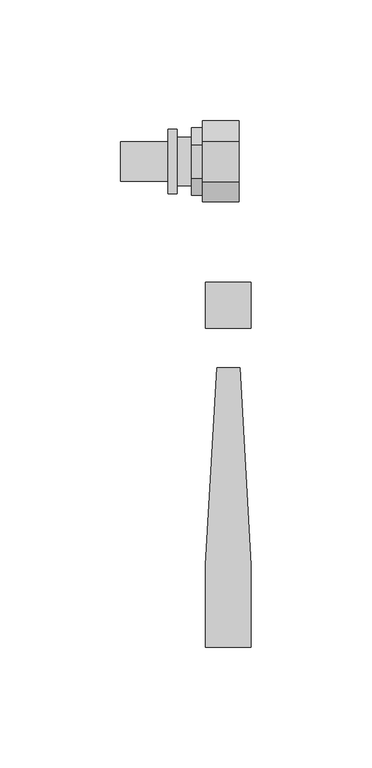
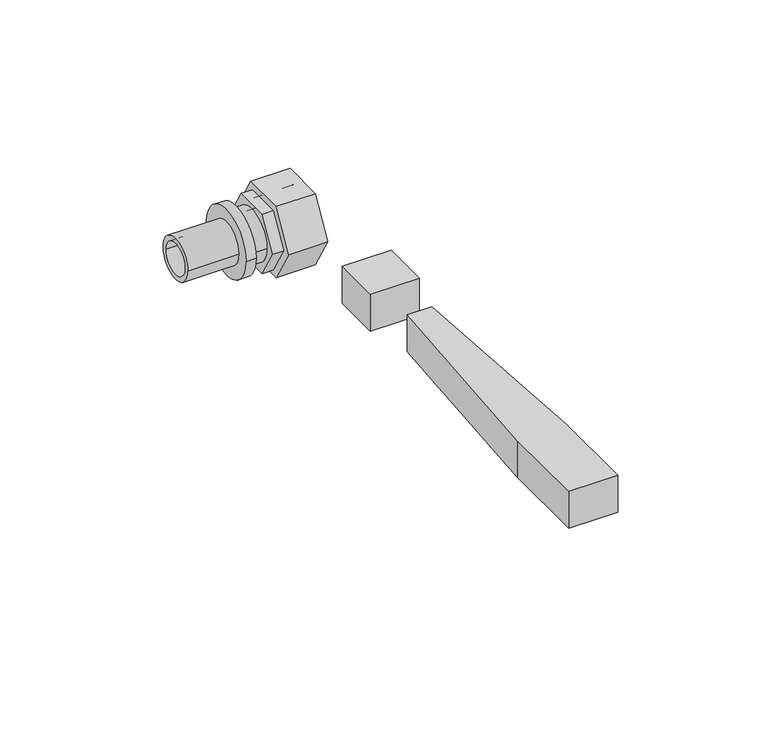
"""IFC4 building model written with IfcOpenShell, lengths in millimetres: pipe fitting geometry, RAUTITAN_LX_C.Coupling : RTI LX/PX C.C DN."""

from ifc_helpers import new_model, si_unit, point, frame, origin, origin_with_axes, origin_2d, place, context, project, spatial, polyline, circle_curve, trimmed, segment, composite_curve, outline, extrude, source, transform, mapped, element, save
from ifc_brep_helpers import plane_surface, cylinder_surface, revolved_surface, advanced_brep


def pipe_fitting_b595022a(model_context):
    return source(origin(), model_context, "Body", "SolidModel", [
        extrude(outline(polyline([(8.3715789, -14.5), (-8.3715789, -14.5), (-16.7431578, 0.0), (-8.3715789, 14.5), (8.3715789, 14.5), (16.7431578, 0.0), (8.3715789, -14.5)]), holes=[composite_curve([segment(trimmed(circle_curve(origin_2d(), 11.05), [point((-11.05, 0.0))], [point((11.05, 0.0))], True, "CARTESIAN"), True, "CONTINUOUS"), segment(trimmed(circle_curve(origin_2d(), 11.05), [point((11.05, 0.0))], [point((-11.05, 0.0))], True, "CARTESIAN"), True, "CONTINUOUS")], self_intersect=False)]), frame((14.3, 0.0, 0.0), z_axis=(1.0, 0.0, 0.0), x_axis=(0.0, 1.0, 0.0)), (0.0, 0.0, 1.0), 15.0),
        advanced_brep(
        [(14.8, 6.9570707, -12.05), (9.8, 6.9570707, -12.05), (9.8, 13.9141415, 0.0), (14.8, 13.9141415, 0.0), (9.8, 6.9570707, 12.05), (14.8, 6.9570707, 12.05), (9.8, -6.9570707, 12.05), (14.8, -6.9570707, 12.05), (9.8, -13.9141415, 0.0), (14.8, -13.9141415, 0.0), (9.8, -6.9570707, -12.05), (14.8, -6.9570707, -12.05), (-19.5, 6.25, 0.0), (-19.5, -6.25, 0.0), (9.8, -6.25, 0.0), (9.8, 6.25, 0.0), (0.0, 8.25, 0.0), (0.0, -8.25, 0.0), (-19.5, -8.25, 0.0), (-19.5, 8.25, 0.0), (3.8, 13.25, 0.0), (3.8, -13.25, 0.0), (0.0, -13.25, 0.0), (0.0, 13.25, 0.0), (9.8, 10.05, 0.0), (9.8, -10.05, 0.0), (3.8, -10.05, 0.0), (3.8, 10.05, 0.0), (25.3, 11.05, 0.0), (25.3, -11.05, 0.0), (14.8, -11.05, 0.0), (14.8, 11.05, 0.0), (11.2, 7.65, 0.0), (11.2, -7.65, 0.0), (25.3, -7.65, 0.0), (25.3, 7.65, 0.0)],
        [
            (0, 1),
            (1, 2),
            (2, 3),
            (3, 0),
            (2, 4),
            (4, 5),
            (5, 3),
            (4, 6),
            (6, 7),
            (7, 5),
            (6, 8),
            (8, 9),
            (9, 7),
            (8, 10),
            (10, 11),
            (11, 9),
            (0, 11),
            (10, 1),
            (12, 13, circle_curve(frame((-19.5, 0.0, 0.0), z_axis=(-1.0, 0.0, 0.0), x_axis=(0.0, -1.0, 0.0)), 6.25)),
            (13, 14),
            (14, 15, circle_curve(frame((9.8, 0.0, 0.0), z_axis=(1.0, 0.0, 0.0), x_axis=(0.0, -1.0, 0.0)), 6.25)),
            (15, 12),
            (16, 17, circle_curve(frame((0.0, 0.0, 0.0), z_axis=(-1.0, 0.0, 0.0), x_axis=(0.0, -1.0, 0.0)), 8.25)),
            (17, 18),
            (18, 19, circle_curve(frame((-19.5, 0.0, 0.0), z_axis=(1.0, 0.0, 0.0), x_axis=(0.0, -1.0, 0.0)), 8.25)),
            (19, 16),
            (20, 21, circle_curve(frame((3.8, 0.0, 0.0), z_axis=(-1.0, 0.0, 0.0), x_axis=(0.0, -1.0, 0.0)), 13.25)),
            (21, 22),
            (22, 23, circle_curve(frame((0.0, 0.0, 0.0), z_axis=(1.0, 0.0, 0.0), x_axis=(0.0, -1.0, 0.0)), 13.25)),
            (23, 20),
            (24, 25, circle_curve(frame((9.8, 0.0, 0.0), z_axis=(-1.0, 0.0, 0.0), x_axis=(0.0, -1.0, 0.0)), 10.05)),
            (25, 26),
            (26, 27, circle_curve(frame((3.8, 0.0, 0.0), z_axis=(1.0, 0.0, 0.0), x_axis=(0.0, -1.0, 0.0)), 10.05)),
            (27, 24),
            (28, 29, circle_curve(frame((25.3, 0.0, 0.0), z_axis=(-1.0, 0.0, 0.0), x_axis=(0.0, -1.0, 0.0)), 11.05)),
            (29, 30),
            (30, 31, circle_curve(frame((14.8, 0.0, 0.0), z_axis=(1.0, 0.0, 0.0), x_axis=(0.0, -1.0, 0.0)), 11.05)),
            (31, 28),
            (32, 33, circle_curve(frame((11.2, 0.0, 0.0), z_axis=(-1.0, 0.0, 0.0), x_axis=(0.0, -1.0, 0.0)), 7.65)),
            (33, 34),
            (34, 35, circle_curve(frame((25.3, 0.0, 0.0), z_axis=(1.0, 0.0, 0.0), x_axis=(0.0, -1.0, 0.0)), 7.65)),
            (35, 32),
            (14, 33),
            (32, 15),
            (13, 12, circle_curve(frame((-19.5, 0.0, 0.0), z_axis=(-1.0, 0.0, 0.0), x_axis=(0.0, 1.0, 0.0)), 6.25)),
            (15, 14, circle_curve(frame((9.8, 0.0, 0.0), z_axis=(1.0, 0.0, 0.0), x_axis=(0.0, 1.0, 0.0)), 6.25)),
            (18, 19, circle_curve(frame((-19.5, 0.0, 0.0), z_axis=(-1.0, 0.0, 0.0), x_axis=(0.0, 1.0, 0.0)), 8.25)),
            (17, 16, circle_curve(frame((0.0, 0.0, 0.0), z_axis=(-1.0, 0.0, 0.0), x_axis=(0.0, 1.0, 0.0)), 8.25)),
            (22, 23, circle_curve(frame((0.0, 0.0, 0.0), z_axis=(-1.0, 0.0, 0.0), x_axis=(0.0, 1.0, 0.0)), 13.25)),
            (21, 20, circle_curve(frame((3.8, 0.0, 0.0), z_axis=(-1.0, 0.0, 0.0), x_axis=(0.0, 1.0, 0.0)), 13.25)),
            (26, 27, circle_curve(frame((3.8, 0.0, 0.0), z_axis=(-1.0, 0.0, 0.0), x_axis=(0.0, 1.0, 0.0)), 10.05)),
            (25, 24, circle_curve(frame((9.8, 0.0, 0.0), z_axis=(-1.0, 0.0, 0.0), x_axis=(0.0, 1.0, 0.0)), 10.05)),
            (29, 28, circle_curve(frame((25.3, 0.0, 0.0), z_axis=(-1.0, 0.0, 0.0), x_axis=(0.0, 1.0, 0.0)), 11.05)),
            (31, 30, circle_curve(frame((14.8, 0.0, 0.0), z_axis=(1.0, 0.0, 0.0), x_axis=(0.0, 1.0, 0.0)), 11.05)),
            (34, 35, circle_curve(frame((25.3, 0.0, 0.0), z_axis=(-1.0, 0.0, 0.0), x_axis=(0.0, 1.0, 0.0)), 7.65)),
            (33, 32, circle_curve(frame((11.2, 0.0, 0.0), z_axis=(-1.0, 0.0, 0.0), x_axis=(0.0, 1.0, 0.0)), 7.65)),
        ],
        [
            plane_surface(frame((9.8, 6.9570707, -12.05), z_axis=(0.0, 0.8660254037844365, -0.5000000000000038), x_axis=(0.0, 0.5000000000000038, 0.8660254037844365))),
            plane_surface(frame((9.8, 13.9141415, 0.0), z_axis=(0.0, 0.8660254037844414, 0.4999999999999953), x_axis=(0.0, -0.4999999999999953, 0.8660254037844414))),
            plane_surface(frame((9.8, 6.9570707, 12.05), z_axis=(0.0, 0.0, 1.0), x_axis=(0.0, -1.0, 0.0))),
            plane_surface(frame((9.8, -6.9570707, 12.05), z_axis=(0.0, -0.8660254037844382, 0.5000000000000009), x_axis=(0.0, -0.5000000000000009, -0.8660254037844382))),
            plane_surface(frame((9.8, -13.9141415, 0.0), z_axis=(0.0, -0.8660254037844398, -0.4999999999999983), x_axis=(0.0, 0.4999999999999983, -0.8660254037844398))),
            plane_surface(frame((9.8, -6.9570707, -12.05), z_axis=(0.0, 0.0, -1.0), x_axis=(0.0, 1.0, 0.0))),
            revolved_surface(polyline([(9.8, -6.25, 0.0), (-19.5, -6.25, 0.0)]), (0.0, 0.0, 0.0), (1.0, 0.0, 0.0)),
            cylinder_surface(frame((0.0, 0.0, 0.0), z_axis=(1.0, 0.0, 0.0), x_axis=(0.0, -1.0, 0.0)), 8.25),
            cylinder_surface(frame((0.0, 0.0, 0.0), z_axis=(1.0, 0.0, 0.0), x_axis=(0.0, -1.0, 0.0)), 13.25),
            cylinder_surface(frame((0.0, 0.0, 0.0), z_axis=(1.0, 0.0, 0.0), x_axis=(0.0, -1.0, 0.0)), 10.05),
            cylinder_surface(frame((0.0, 0.0, 0.0), z_axis=(1.0, 0.0, 0.0), x_axis=(0.0, -1.0, 0.0)), 11.05),
            revolved_surface(polyline([(25.3, -7.65, 0.0), (11.2, -7.65, 0.0)]), (0.0, 0.0, 0.0), (1.0, 0.0, 0.0)),
            revolved_surface(polyline([(11.2, -7.65, 0.0), (9.8, -6.25, 0.0)]), (0.0, 0.0, 0.0), (1.0, 0.0, 0.0)),
            revolved_surface(polyline([(9.8, 6.25, 0.0), (-19.5, 6.25, 0.0)]), (0.0, 0.0, 0.0), (1.0, 0.0, 0.0)),
            plane_surface(frame((-19.5, 0.0, 0.0), z_axis=(-1.0, 0.0, 0.0), x_axis=(0.0, 1.0, 0.0))),
            cylinder_surface(frame((0.0, 0.0, 0.0), z_axis=(1.0, 0.0, 0.0), x_axis=(0.0, 1.0, 0.0)), 8.25),
            plane_surface(frame((0.0, 0.0, 0.0), z_axis=(-1.0, 0.0, 0.0), x_axis=(0.0, 1.0, 0.0))),
            cylinder_surface(frame((0.0, 0.0, 0.0), z_axis=(1.0, 0.0, 0.0), x_axis=(0.0, 1.0, 0.0)), 13.25),
            plane_surface(frame((3.8, 0.0, 0.0), z_axis=(1.0, 0.0, 0.0), x_axis=(0.0, 1.0, 0.0))),
            cylinder_surface(frame((0.0, 0.0, 0.0), z_axis=(1.0, 0.0, 0.0), x_axis=(0.0, 1.0, 0.0)), 10.05),
            cylinder_surface(frame((0.0, 0.0, 0.0), z_axis=(1.0, 0.0, 0.0), x_axis=(0.0, 1.0, 0.0)), 11.05),
            plane_surface(frame((25.3, 0.0, 0.0), z_axis=(1.0, 0.0, 0.0), x_axis=(0.0, 1.0, 0.0))),
            revolved_surface(polyline([(25.3, 7.65, 0.0), (11.2, 7.65, 0.0)]), (0.0, 0.0, 0.0), (1.0, 0.0, 0.0)),
            revolved_surface(polyline([(11.2, 7.65, 0.0), (9.8, 6.25, 0.0)]), (0.0, 0.0, 0.0), (1.0, 0.0, 0.0)),
            plane_surface(frame((14.8, -6.9570707, -12.05), z_axis=(1.0, 0.0, 0.0), x_axis=(0.0, 1.0, 0.0))),
            plane_surface(frame((9.8, -5.2250199, -9.05), z_axis=(-1.0, 0.0, 0.0), x_axis=(0.0, 1.0, 0.0))),
        ],
        [
            (0, [[1, 2, 3, 4]]),
            (1, [[-3, 5, 6, 7]]),
            (2, [[-6, 8, 9, 10]]),
            (3, [[-9, 11, 12, 13]]),
            (4, [[-12, 14, 15, 16]]),
            (5, [[-1, 17, -15, 18]]),
            (6, [[19, 20, 21, 22]]),
            (7, [[23, 24, 25, 26]]),
            (8, [[27, 28, 29, 30]]),
            (9, [[31, 32, 33, 34]]),
            (10, [[35, 36, 37, 38]]),
            (11, [[39, 40, 41, 42]]),
            (12, [[-21, 43, -39, 44]]),
            (13, [[-20, 45, -22, 46]]),
            (14, [[-25, 47], [-19, -45]]),
            (15, [[-24, 48, -26, -47]]),
            (16, [[-29, 49], [-23, -48]]),
            (17, [[-28, 50, -30, -49]]),
            (18, [[-27, -50], [-33, 51]]),
            (19, [[-32, 52, -34, -51]]),
            (20, [[53, -38, 54, -36]]),
            (21, [[-35, -53], [-41, 55]]),
            (22, [[-40, 56, -42, -55]]),
            (23, [[-43, -46, -44, -56]]),
            (24, [[-4, -7, -10, -13, -16, -17], [-37, -54]]),
            (25, [[-2, -18, -14, -11, -8, -5], [-31, -52]]),
        ],
    ),
        extrude(outline(polyline([(29.7088895, -85.3166715), (34.4177791, -166.6553807), (34.4177791, -200.6844652), (15.5822209, -200.6844652), (15.5822209, -166.6553807), (20.2911105, -85.3166715), (29.7088895, -85.3166715)])), origin_with_axes(), (0.0, 0.0, 1.0), 15.0),
        extrude(outline(polyline([(34.4177791, -50.0), (34.4177791, -68.8355582), (15.5822209, -68.8355582), (15.5822209, -50.0), (34.4177791, -50.0)])), origin_with_axes(), (0.0, 0.0, 1.0), 15.0),
    ])


if __name__ == "__main__":
    model = new_model("IFC4")
    model_context = context("Model", 3, world=origin())
    ifc_project = project(units=[si_unit("LENGTHUNIT", "METRE", prefix="MILLI")], contexts=[model_context])
    site = spatial("IfcSite", under=ifc_project)
    building = spatial("IfcBuilding", under=site)
    placement = place(None, origin())
    pipe_fitting_shape = pipe_fitting_b595022a(model_context)
    element("IfcPipeFitting", 1, ObjectType="RAUTITAN_LX_C.Coupling : RTI LX/PX C.C DN", at=placement, inside=building, context=model_context, shape_type="MappedRepresentation", body=[
        mapped(pipe_fitting_shape, transform((0.0, 0.0, 0.0), x_axis=(1.0, 0.0, 0.0), y_axis=(0.0, 1.0, 0.0), z_axis=(0.0, 0.0, 1.0))),
    ])
    save(model, "model.ifc")
